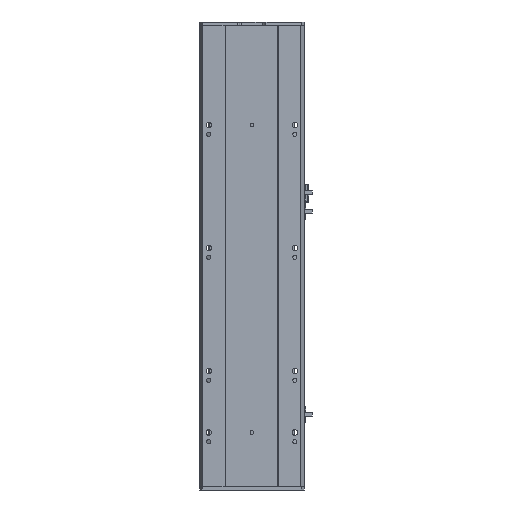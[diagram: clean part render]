
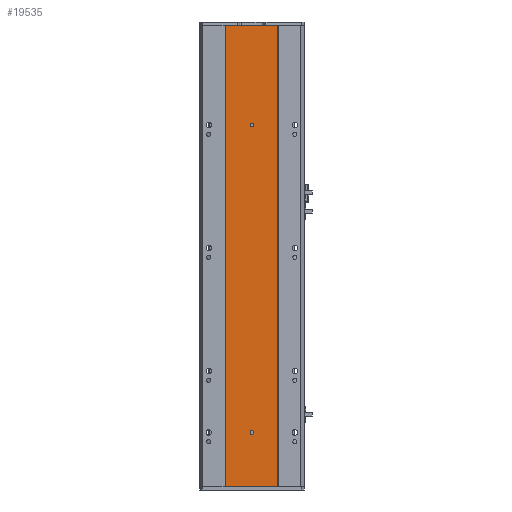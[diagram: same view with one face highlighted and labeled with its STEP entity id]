
A CAD part, front view. The second image highlights one B-rep face of the part: STEP entity #19535.
In plain terms, the highlighted planar face has unit normal (0, -1, 0).
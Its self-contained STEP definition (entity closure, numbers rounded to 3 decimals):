
#79 = DIRECTION ( 'NONE',  ( 0., 0., 1. ) ) ;
#282 = EDGE_CURVE ( 'NONE', #10980, #10506, #4289, .T. ) ;
#338 = ORIENTED_EDGE ( 'NONE', *, *, #282, .T. ) ;
#451 = DIRECTION ( 'NONE',  ( 0., 0., 1. ) ) ;
#540 = EDGE_LOOP ( 'NONE', ( #10931, #11650 ) ) ;
#830 = VERTEX_POINT ( 'NONE', #11262 ) ;
#1199 = DIRECTION ( 'NONE',  ( 0., 1., 0. ) ) ;
#1505 = AXIS2_PLACEMENT_3D ( 'NONE', #9530, #11403, #79 ) ;
#1607 = CARTESIAN_POINT ( 'NONE',  ( 126.916, 2.57, 0. ) ) ;
#2129 = ORIENTED_EDGE ( 'NONE', *, *, #7391, .T. ) ;
#3537 = DIRECTION ( 'NONE',  ( 0., 0., 1. ) ) ;
#4289 = LINE ( 'NONE', #1607, #23061 ) ;
#4821 = EDGE_LOOP ( 'NONE', ( #2129, #20760, #14348, #338 ) ) ;
#4847 = AXIS2_PLACEMENT_3D ( 'NONE', #5108, #18267, #7042 ) ;
#5040 = LINE ( 'NONE', #16002, #14456 ) ;
#5108 = CARTESIAN_POINT ( 'NONE',  ( 85., 2.57, 88.5 ) ) ;
#5151 = CIRCLE ( 'NONE', #16373, 3. ) ;
#5410 = CARTESIAN_POINT ( 'NONE',  ( 42.916, 2.57, 0. ) ) ;
#5815 = FACE_BOUND ( 'NONE', #540, .T. ) ;
#5879 = EDGE_CURVE ( 'NONE', #830, #19324, #18062, .T. ) ;
#5927 = CARTESIAN_POINT ( 'NONE',  ( 42.916, 2.57, 0. ) ) ;
#6016 = CARTESIAN_POINT ( 'NONE',  ( 42.916, 2.57, 751. ) ) ;
#6607 = VECTOR ( 'NONE', #24158, 1000. ) ;
#7042 = DIRECTION ( 'NONE',  ( 0., 0., 1. ) ) ;
#7126 = CIRCLE ( 'NONE', #12908, 3. ) ;
#7391 = EDGE_CURVE ( 'NONE', #10506, #21911, #5040, .T. ) ;
#9530 = CARTESIAN_POINT ( 'NONE',  ( 42.916, 2.57, 0. ) ) ;
#9774 = CARTESIAN_POINT ( 'NONE',  ( 85., 2.57, 588.5 ) ) ;
#10506 = VERTEX_POINT ( 'NONE', #13336 ) ;
#10817 = FACE_OUTER_BOUND ( 'NONE', #4821, .T. ) ;
#10931 = ORIENTED_EDGE ( 'NONE', *, *, #21288, .T. ) ;
#10980 = VERTEX_POINT ( 'NONE', #23902 ) ;
#11262 = CARTESIAN_POINT ( 'NONE',  ( 85., 2.57, 85.5 ) ) ;
#11403 = DIRECTION ( 'NONE',  ( 0., 1., 0. ) ) ;
#11414 = FACE_BOUND ( 'NONE', #16646, .T. ) ;
#11623 = LINE ( 'NONE', #5410, #6607 ) ;
#11650 = ORIENTED_EDGE ( 'NONE', *, *, #23694, .T. ) ;
#11654 = DIRECTION ( 'NONE',  ( 0., 0., 1. ) ) ;
#11776 = DIRECTION ( 'NONE',  ( 0., 1., 0. ) ) ;
#12529 = CARTESIAN_POINT ( 'NONE',  ( 85., 2.57, 588.5 ) ) ;
#12619 = ORIENTED_EDGE ( 'NONE', *, *, #5879, .T. ) ;
#12908 = AXIS2_PLACEMENT_3D ( 'NONE', #12529, #1199, #14398 ) ;
#13336 = CARTESIAN_POINT ( 'NONE',  ( 126.916, 2.57, 751. ) ) ;
#14348 = ORIENTED_EDGE ( 'NONE', *, *, #15818, .F. ) ;
#14398 = DIRECTION ( 'NONE',  ( 0., 0., 1. ) ) ;
#14456 = VECTOR ( 'NONE', #19773, 1000. ) ;
#15818 = EDGE_CURVE ( 'NONE', #10980, #16788, #11623, .T. ) ;
#15856 = EDGE_CURVE ( 'NONE', #16788, #21911, #20994, .T. ) ;
#16000 = VECTOR ( 'NONE', #19058, 1000. ) ;
#16002 = CARTESIAN_POINT ( 'NONE',  ( 42.916, 2.57, 751. ) ) ;
#16298 = CARTESIAN_POINT ( 'NONE',  ( 85., 2.57, 585.5 ) ) ;
#16373 = AXIS2_PLACEMENT_3D ( 'NONE', #9774, #22836, #11654 ) ;
#16516 = CARTESIAN_POINT ( 'NONE',  ( 42.916, 2.57, 0. ) ) ;
#16646 = EDGE_LOOP ( 'NONE', ( #12619, #21197 ) ) ;
#16716 = AXIS2_PLACEMENT_3D ( 'NONE', #22946, #11776, #451 ) ;
#16788 = VERTEX_POINT ( 'NONE', #16516 ) ;
#17231 = CARTESIAN_POINT ( 'NONE',  ( 85., 2.57, 91.5 ) ) ;
#18062 = CIRCLE ( 'NONE', #16716, 3. ) ;
#18267 = DIRECTION ( 'NONE',  ( 0., 1., 0. ) ) ;
#18490 = VERTEX_POINT ( 'NONE', #20291 ) ;
#19058 = DIRECTION ( 'NONE',  ( 0., 0., 1. ) ) ;
#19324 = VERTEX_POINT ( 'NONE', #17231 ) ;
#19535 = ADVANCED_FACE ( 'NONE', ( #11414, #5815, #10817 ), #22589, .F. ) ;
#19773 = DIRECTION ( 'NONE',  ( -1., 0., 0. ) ) ;
#19791 = EDGE_CURVE ( 'NONE', #19324, #830, #24250, .T. ) ;
#20291 = CARTESIAN_POINT ( 'NONE',  ( 85., 2.57, 591.5 ) ) ;
#20760 = ORIENTED_EDGE ( 'NONE', *, *, #15856, .F. ) ;
#20994 = LINE ( 'NONE', #5927, #16000 ) ;
#21197 = ORIENTED_EDGE ( 'NONE', *, *, #19791, .T. ) ;
#21288 = EDGE_CURVE ( 'NONE', #23223, #18490, #5151, .T. ) ;
#21911 = VERTEX_POINT ( 'NONE', #6016 ) ;
#22589 = PLANE ( 'NONE',  #1505 ) ;
#22836 = DIRECTION ( 'NONE',  ( 0., 1., 0. ) ) ;
#22946 = CARTESIAN_POINT ( 'NONE',  ( 85., 2.57, 88.5 ) ) ;
#23061 = VECTOR ( 'NONE', #3537, 1000. ) ;
#23223 = VERTEX_POINT ( 'NONE', #16298 ) ;
#23694 = EDGE_CURVE ( 'NONE', #18490, #23223, #7126, .T. ) ;
#23902 = CARTESIAN_POINT ( 'NONE',  ( 126.916, 2.57, 0. ) ) ;
#24158 = DIRECTION ( 'NONE',  ( -1., 0., 0. ) ) ;
#24250 = CIRCLE ( 'NONE', #4847, 3. ) ;
